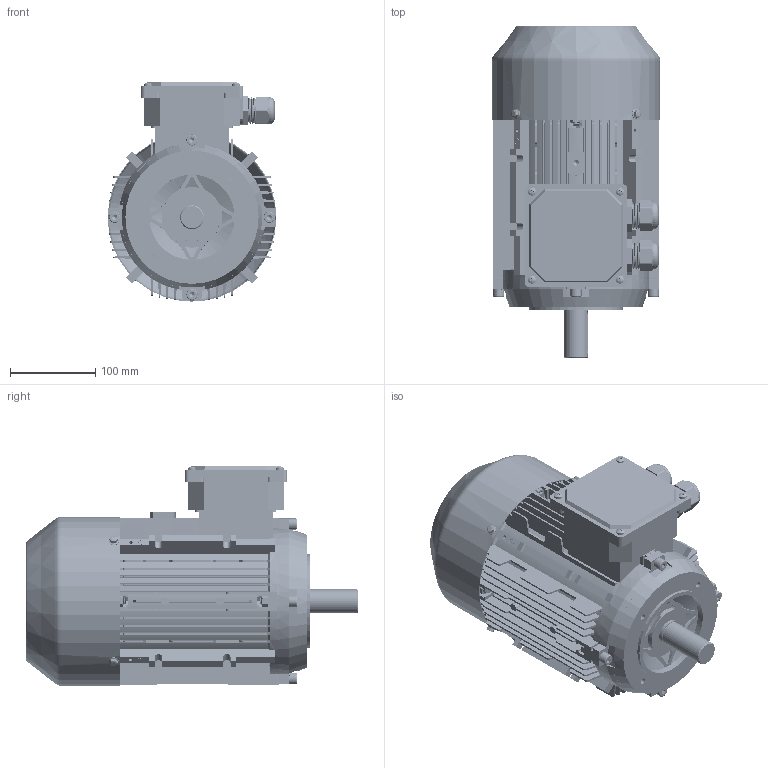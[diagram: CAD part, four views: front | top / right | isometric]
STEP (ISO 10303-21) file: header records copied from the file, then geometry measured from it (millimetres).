
FILE_DESCRIPTION (( 'STEP AP203' ), '1' );
FILE_NAME ('ME3-100B14 3D.STEP', '2024-06-18T07:56:01', ( 'User' ), ( 'China' ), 'SwSTEP 2.0', 'SolidWorks 2018', '' );
FILE_SCHEMA (( 'CONFIG_CONTROL_DESIGN' ));
Length unit declared in the file: millimetre
Products named in the file (20): hex flange bolts-heavy grade b gb_GB_FASTENER_BOLT_HFBB M5X10-S; M24 蹟杶簸; ME3-100ヶ傷裔B3; ME3-100傷裔B14; hexagon socket head cap screws gb_GB_FASTENER_SCREWS_HSHCS M8X35-S; deep groove ball bearings gb_Rolling bearings 6206 GB 276-94; ME3-100B14  3D; hex nuts, style 2-grades ab gb_GB_HEXAGON_TYPE13 M8 Normal Style-S; ME3-100转轴（206.5）; wave single coil spring lock washers gb_GB_FASTENER_WASHER_WSLW 8; 蚐猾45X30X7; hexagon socket head cap screws gb_GB_FASTENER_SCREWS_HSHCS M8X25-S; ME 3 100 瑞珔; cross recessed pan head screws gb_GB_CROSS_SCREWS_TYPE1 M5X8-8  H type-S; circlips for shaft--type b gb_GB_CONNECTING_PIECE_RINGS_CSB 22; MS112-132諉盄碟裔; MS112-132 諉盄碟釱; ME3-100 瑞欶; M24 蹟杶; ME3-100 儂褲
Assembly tree (49 placements, depth 2):
  ME3-100B14  3D
    ME3-100 儂褲
    ME3-100ヶ傷裔B3
    deep groove ball bearings gb_Rolling bearings 6206 GB 276-94  x2
    ME3-100转轴（206.5）
    蚐猾45X30X7
    ME 3 100 瑞珔
    circlips for shaft--type b gb_GB_CONNECTING_PIECE_RINGS_CSB 22
    MS112-132 諉盄碟釱
    M24 蹟杶  x2
    M24 蹟杶簸  x2
    hexagon socket head cap screws gb_GB_FASTENER_SCREWS_HSHCS M8X35-S  x7
    hex nuts, style 2-grades ab gb_GB_HEXAGON_TYPE13 M8 Normal Style-S  x9
    wave single coil spring lock washers gb_GB_FASTENER_WASHER_WSLW 8  x4
    hexagon socket head cap screws gb_GB_FASTENER_SCREWS_HSHCS M8X25-S
    cross recessed pan head screws gb_GB_CROSS_SCREWS_TYPE1 M5X8-8  H type-S  x8
    MS112-132諉盄碟裔
    ME3-100 瑞欶
    hex flange bolts-heavy grade b gb_GB_FASTENER_BOLT_HFBB M5X10-S  x4
    ME3-100傷裔B14
Bounding box: 197.6 x 388.69 x 256.8 mm (x, y, z)
Volume: 1848841.5 mm3; surface area: 1103772.8 mm2
Topology: 49 solids, 50 shells, 7136 faces, 17110 edges, 10012 vertices
Faces by surface type: cone 2697, cylinder 2150, plane 1901, torus 224, bspline 84, sphere 80
Entity records: 121922 total; most frequent: CARTESIAN_POINT 32489, ORIENTED_EDGE 18514, DIRECTION 17743, EDGE_CURVE 9257, AXIS2_PLACEMENT_3D 6241, VERTEX_POINT 5797, VECTOR 5261, LINE 5261
